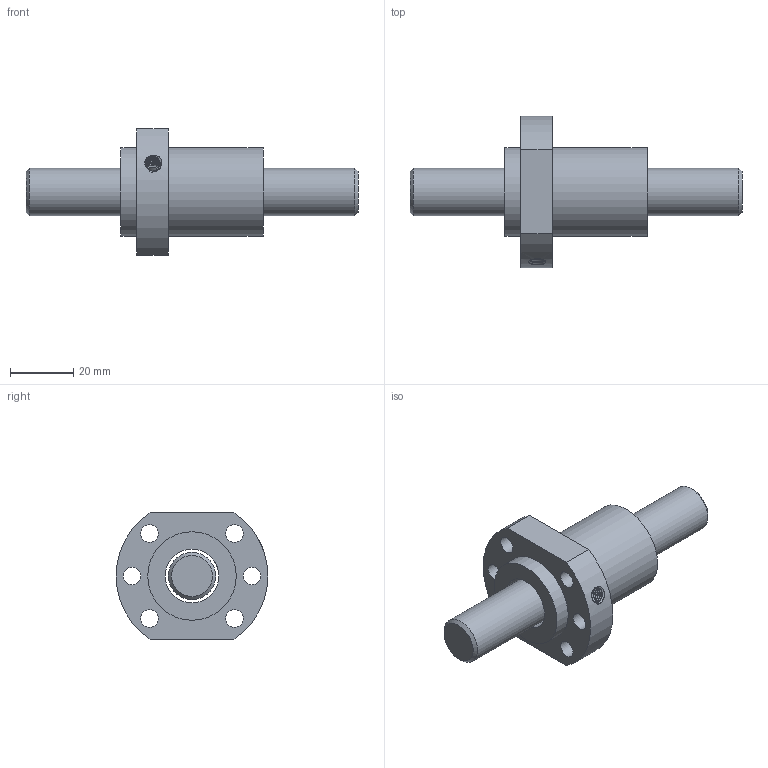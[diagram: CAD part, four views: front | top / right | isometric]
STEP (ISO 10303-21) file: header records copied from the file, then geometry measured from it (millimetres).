
FILE_DESCRIPTION (( 'STEP AP203' ), '1' );
FILE_NAME ('SFH1616-1.8.STEP', '2023-08-16T05:28:10', ( '' ), ( '' ), 'SwSTEP 2.0', 'SolidWorks 2022', '' );
FILE_SCHEMA (( 'CONFIG_CONTROL_DESIGN' ));
Length unit declared in the file: millimetre
Products named in the file (1): SFH1616-1.8
Bounding box: 105 x 48 x 40 mm (x, y, z)
Volume: 44804.4 mm3; surface area: 16104 mm2
Topology: 2 solids, 2 shells, 30 faces, 69 edges, 45 vertices
Faces by surface type: cylinder 16, plane 9, cone 3, bspline 2
Full cylindrical faces by diameter (mm): 4 x1, 4.917 x1, 5.5 x6, 15 x1, 17 x1, 28 x2
Entity records: 2608 total; most frequent: CARTESIAN_POINT 1908, DIRECTION 128, ORIENTED_EDGE 100, EDGE_LOOP 63, AXIS2_PLACEMENT_3D 60, EDGE_CURVE 50, FACE_OUTER_BOUND 42, VERTEX_POINT 41
